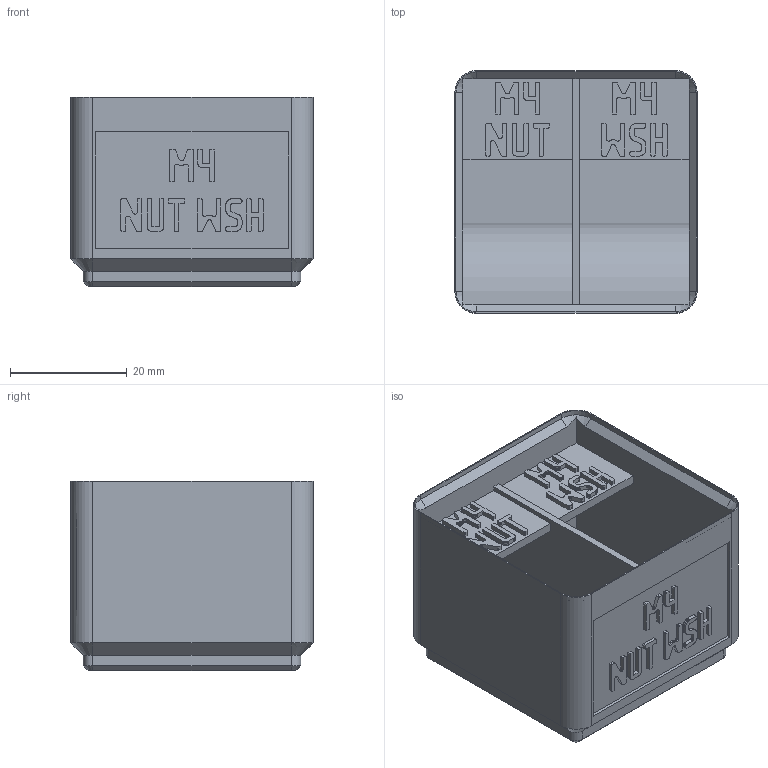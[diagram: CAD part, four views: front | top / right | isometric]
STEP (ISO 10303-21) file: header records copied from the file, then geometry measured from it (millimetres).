
FILE_DESCRIPTION(('Open CASCADE Model'),'2;1');
FILE_NAME('Open CASCADE Shape Model','2026-11-16T17:32:15',('Author'),( 'Open CASCADE'),'Open CASCADE STEP processor 8.0','build123d', 'Unknown');
FILE_SCHEMA(('AUTOMOTIVE_DESIGN { 1 0 10303 214 1 1 1 1 }'));
Products named in the file (1): SOLID
Bounding box: 41.5 x 41.5 x 32.4 mm (x, y, z)
Volume: 25103 mm3; surface area: 13612.2 mm2
Topology: 1 solids, 1 shells, 1842 faces, 5422 edges, 3604 vertices
Faces by surface type: plane 1816, cylinder 14, cone 12
Entity records: 127002 total; most frequent: CARTESIAN_POINT 25485, DIRECTION 16374, LINE 12588, VECTOR 12588, ORIENTED_EDGE 10844, PCURVE 10844, DEFINITIONAL_REPRESENTATION 10844, EDGE_CURVE 5422
